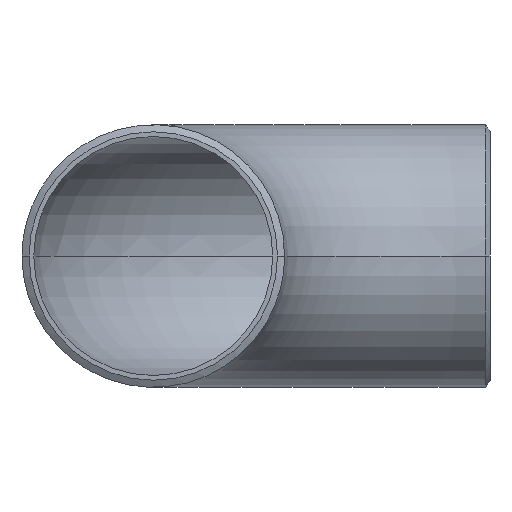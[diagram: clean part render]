
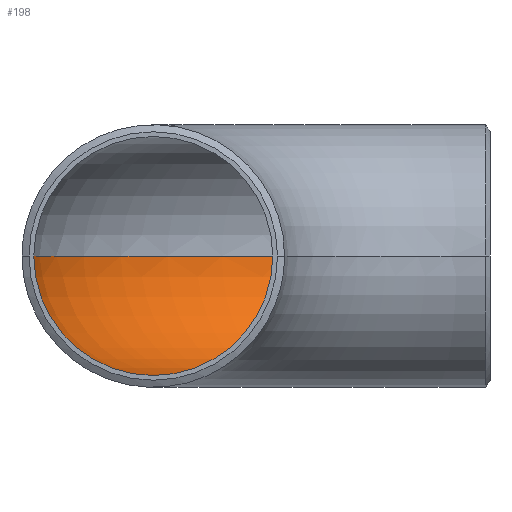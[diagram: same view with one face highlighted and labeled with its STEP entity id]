
A CAD part, front view. The second image highlights one B-rep face of the part: STEP entity #198.
In plain terms, the highlighted toroidal (fillet/blend) face has major radius 114 mm and minor radius 40.45 mm.
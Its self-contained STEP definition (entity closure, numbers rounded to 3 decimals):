
#11 = AXIS2_PLACEMENT_3D ( 'NONE', #256, #584, #60 ) ;
#17 = CARTESIAN_POINT ( 'NONE',  ( 114., 0., 0. ) ) ;
#26 = CARTESIAN_POINT ( 'NONE',  ( 114., 73.55, 0. ) ) ;
#47 = ORIENTED_EDGE ( 'NONE', *, *, #178, .T. ) ;
#60 = DIRECTION ( 'NONE',  ( 0., 0., 1. ) ) ;
#80 = VERTEX_POINT ( 'NONE', #578 ) ;
#105 = DIRECTION ( 'NONE',  ( 0., 0., 1. ) ) ;
#108 = DIRECTION ( 'NONE',  ( 1., 0., 0. ) ) ;
#157 = CIRCLE ( 'NONE', #558, 154.45 ) ;
#164 = EDGE_CURVE ( 'NONE', #221, #415, #316, .T. ) ;
#178 = EDGE_CURVE ( 'NONE', #221, #80, #325, .T. ) ;
#198 = ADVANCED_FACE ( 'NONE', ( #342 ), #497, .F. ) ;
#215 = ORIENTED_EDGE ( 'NONE', *, *, #338, .T. ) ;
#220 = CIRCLE ( 'NONE', #11, 40.45 ) ;
#221 = VERTEX_POINT ( 'NONE', #26 ) ;
#229 = AXIS2_PLACEMENT_3D ( 'NONE', #17, #387, #299 ) ;
#256 = CARTESIAN_POINT ( 'NONE',  ( 0., 0., 0. ) ) ;
#289 = DIRECTION ( 'NONE',  ( 0., 1., 0. ) ) ;
#299 = DIRECTION ( 'NONE',  ( 1., 0., 0. ) ) ;
#315 = VERTEX_POINT ( 'NONE', #555 ) ;
#316 = CIRCLE ( 'NONE', #475, 73.55 ) ;
#325 = CIRCLE ( 'NONE', #507, 40.45 ) ;
#338 = EDGE_CURVE ( 'NONE', #80, #315, #157, .T. ) ;
#342 = FACE_OUTER_BOUND ( 'NONE', #481, .T. ) ;
#380 = DIRECTION ( 'NONE',  ( 0., 0., 1. ) ) ;
#387 = DIRECTION ( 'NONE',  ( 0., 0., 1. ) ) ;
#415 = VERTEX_POINT ( 'NONE', #536 ) ;
#424 = DIRECTION ( 'NONE',  ( 1., 0., 0. ) ) ;
#442 = CARTESIAN_POINT ( 'NONE',  ( 114., 114., 0. ) ) ;
#448 = DIRECTION ( 'NONE',  ( 1., 0., 0. ) ) ;
#449 = EDGE_CURVE ( 'NONE', #415, #315, #220, .T. ) ;
#475 = AXIS2_PLACEMENT_3D ( 'NONE', #585, #105, #108 ) ;
#478 = CARTESIAN_POINT ( 'NONE',  ( 114., 0., 0. ) ) ;
#481 = EDGE_LOOP ( 'NONE', ( #47, #215, #576, #602 ) ) ;
#497 = TOROIDAL_SURFACE ( 'NONE', #229, 114., 40.45 ) ;
#507 = AXIS2_PLACEMENT_3D ( 'NONE', #442, #448, #289 ) ;
#536 = CARTESIAN_POINT ( 'NONE',  ( 40.45, 0., 0. ) ) ;
#555 = CARTESIAN_POINT ( 'NONE',  ( -40.45, 0., 0. ) ) ;
#558 = AXIS2_PLACEMENT_3D ( 'NONE', #478, #380, #424 ) ;
#576 = ORIENTED_EDGE ( 'NONE', *, *, #449, .F. ) ;
#578 = CARTESIAN_POINT ( 'NONE',  ( 114., 154.45, 0. ) ) ;
#584 = DIRECTION ( 'NONE',  ( 0., 1., 0. ) ) ;
#585 = CARTESIAN_POINT ( 'NONE',  ( 114., 0., 0. ) ) ;
#602 = ORIENTED_EDGE ( 'NONE', *, *, #164, .F. ) ;
